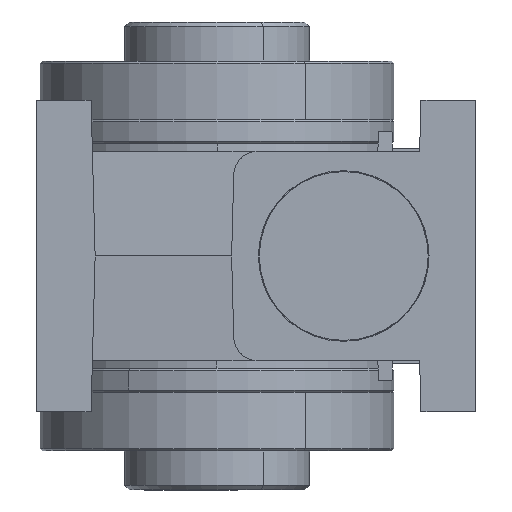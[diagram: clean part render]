
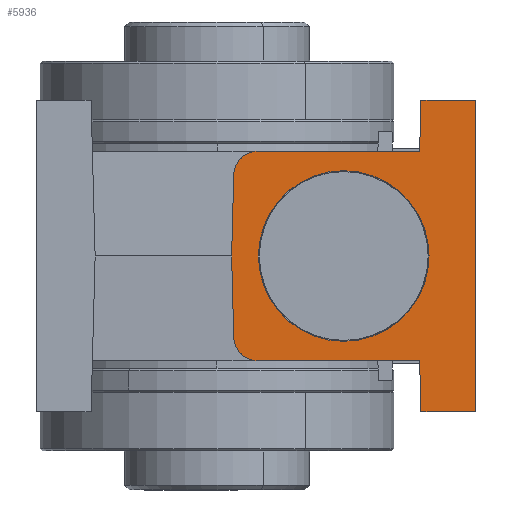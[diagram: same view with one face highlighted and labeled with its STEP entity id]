
A CAD part, left-side view. The second image highlights one B-rep face of the part: STEP entity #5936.
In plain terms, the highlighted planar face has unit normal (-1, 0, 0).
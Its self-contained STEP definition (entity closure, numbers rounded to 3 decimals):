
#110 = DIRECTION ( 'NONE',  ( 0., -1., 0. ) ) ;
#213 = EDGE_CURVE ( 'NONE', #26625, #3086, #16313, .T. ) ;
#305 = CARTESIAN_POINT ( 'NONE',  ( -37., -41., 0. ) ) ;
#313 = AXIS2_PLACEMENT_3D ( 'NONE', #24184, #5922, #22205 ) ;
#627 = EDGE_CURVE ( 'NONE', #12957, #15087, #24593, .T. ) ;
#984 = DIRECTION ( 'NONE',  ( 0., -1., 0. ) ) ;
#1165 = LINE ( 'NONE', #14846, #26488 ) ;
#1250 = CARTESIAN_POINT ( 'NONE',  ( -37., -55., 32. ) ) ;
#1380 = AXIS2_PLACEMENT_3D ( 'NONE', #6233, #10926, #8052 ) ;
#1404 = DIRECTION ( 'NONE',  ( 0., 1., 0. ) ) ;
#1718 = DIRECTION ( 'NONE',  ( 0., 1., 0. ) ) ;
#1857 = ORIENTED_EDGE ( 'NONE', *, *, #213, .F. ) ;
#1864 = DIRECTION ( 'NONE',  ( 0., 0.026, 1. ) ) ;
#1963 = VERTEX_POINT ( 'NONE', #29750 ) ;
#2419 = DIRECTION ( 'NONE',  ( 0., -0.026, -1. ) ) ;
#2788 = VERTEX_POINT ( 'NONE', #24681 ) ;
#3060 = CARTESIAN_POINT ( 'NONE',  ( -37., -8.434, 21.5 ) ) ;
#3086 = VERTEX_POINT ( 'NONE', #3060 ) ;
#3382 = EDGE_CURVE ( 'NONE', #19546, #1963, #11390, .T. ) ;
#3609 = CARTESIAN_POINT ( 'NONE',  ( -37., -41., 0. ) ) ;
#3844 = FACE_OUTER_BOUND ( 'NONE', #13237, .T. ) ;
#4370 = ORIENTED_EDGE ( 'NONE', *, *, #3382, .T. ) ;
#4511 = EDGE_CURVE ( 'NONE', #22942, #2788, #27109, .T. ) ;
#4650 = VERTEX_POINT ( 'NONE', #16252 ) ;
#5173 = ORIENTED_EDGE ( 'NONE', *, *, #8537, .T. ) ;
#5922 = DIRECTION ( 'NONE',  ( 1., 0., 0. ) ) ;
#5936 = ADVANCED_FACE ( 'NONE', ( #24830, #3844 ), #24683, .F. ) ;
#5946 = LINE ( 'NONE', #1250, #10911 ) ;
#6233 = CARTESIAN_POINT ( 'NONE',  ( -37., -8.434, -16.5 ) ) ;
#6413 = ORIENTED_EDGE ( 'NONE', *, *, #26399, .F. ) ;
#6517 = VERTEX_POINT ( 'NONE', #17705 ) ;
#8052 = DIRECTION ( 'NONE',  ( 0., 1., 0. ) ) ;
#8537 = EDGE_CURVE ( 'NONE', #9584, #15087, #5946, .T. ) ;
#8660 = EDGE_LOOP ( 'NONE', ( #18409, #23710 ) ) ;
#9109 = VECTOR ( 'NONE', #2419, 1000. ) ;
#9381 = LINE ( 'NONE', #16238, #13013 ) ;
#9584 = VERTEX_POINT ( 'NONE', #17238 ) ;
#10911 = VECTOR ( 'NONE', #1404, 1000. ) ;
#10926 = DIRECTION ( 'NONE',  ( 1., 0., 0. ) ) ;
#11056 = EDGE_CURVE ( 'NONE', #19237, #4650, #12316, .T. ) ;
#11390 = LINE ( 'NONE', #305, #9109 ) ;
#11739 = EDGE_CURVE ( 'NONE', #3086, #12957, #28539, .T. ) ;
#11808 = VECTOR ( 'NONE', #29188, 1000. ) ;
#12316 = CIRCLE ( 'NONE', #18626, 17.5 ) ;
#12332 = ORIENTED_EDGE ( 'NONE', *, *, #11739, .F. ) ;
#12957 = VERTEX_POINT ( 'NONE', #28591 ) ;
#13013 = VECTOR ( 'NONE', #25524, 1000. ) ;
#13096 = VECTOR ( 'NONE', #1864, 1000. ) ;
#13179 = ORIENTED_EDGE ( 'NONE', *, *, #20208, .F. ) ;
#13237 = EDGE_LOOP ( 'NONE', ( #21566, #12332, #1857, #22671, #13179, #27386, #6413, #4370, #15852, #21770, #5173 ) ) ;
#13700 = DIRECTION ( 'NONE',  ( 1., 0., 0. ) ) ;
#14846 = CARTESIAN_POINT ( 'NONE',  ( -37., -53., -21.5 ) ) ;
#15087 = VERTEX_POINT ( 'NONE', #25929 ) ;
#15852 = ORIENTED_EDGE ( 'NONE', *, *, #26790, .T. ) ;
#16151 = CARTESIAN_POINT ( 'NONE',  ( -37., -26., 0. ) ) ;
#16238 = CARTESIAN_POINT ( 'NONE',  ( -37., -53., 32. ) ) ;
#16252 = CARTESIAN_POINT ( 'NONE',  ( -37., -43.5, 0. ) ) ;
#16313 = CIRCLE ( 'NONE', #313, 5. ) ;
#16360 = VERTEX_POINT ( 'NONE', #22085 ) ;
#16631 = CARTESIAN_POINT ( 'NONE',  ( -37., 37., -32. ) ) ;
#17079 = DIRECTION ( 'NONE',  ( 1., 0., 0. ) ) ;
#17151 = AXIS2_PLACEMENT_3D ( 'NONE', #20552, #13700, #18111 ) ;
#17238 = CARTESIAN_POINT ( 'NONE',  ( -37., -53., 32. ) ) ;
#17276 = VECTOR ( 'NONE', #110, 1000. ) ;
#17482 = CARTESIAN_POINT ( 'NONE',  ( -37., -41.563, -21.5 ) ) ;
#17705 = CARTESIAN_POINT ( 'NONE',  ( -37., -53., -32. ) ) ;
#17848 = CARTESIAN_POINT ( 'NONE',  ( -37., -3.435, 16.631 ) ) ;
#18111 = DIRECTION ( 'NONE',  ( 0., 1., 0. ) ) ;
#18272 = DIRECTION ( 'NONE',  ( 1., 0., 0. ) ) ;
#18409 = ORIENTED_EDGE ( 'NONE', *, *, #11056, .T. ) ;
#18626 = AXIS2_PLACEMENT_3D ( 'NONE', #16151, #18272, #1718 ) ;
#18951 = EDGE_CURVE ( 'NONE', #4650, #19237, #26110, .T. ) ;
#18952 = DIRECTION ( 'NONE',  ( 0., 1., 0. ) ) ;
#19237 = VERTEX_POINT ( 'NONE', #25273 ) ;
#19546 = VERTEX_POINT ( 'NONE', #17482 ) ;
#20208 = EDGE_CURVE ( 'NONE', #2788, #16360, #24836, .T. ) ;
#20552 = CARTESIAN_POINT ( 'NONE',  ( -37., 37., 32. ) ) ;
#21566 = ORIENTED_EDGE ( 'NONE', *, *, #627, .F. ) ;
#21770 = ORIENTED_EDGE ( 'NONE', *, *, #29346, .F. ) ;
#21936 = CARTESIAN_POINT ( 'NONE',  ( -37., -8.434, -21.5 ) ) ;
#22085 = CARTESIAN_POINT ( 'NONE',  ( -37., -3., 0. ) ) ;
#22169 = DIRECTION ( 'NONE',  ( 0., -0.026, 1. ) ) ;
#22205 = DIRECTION ( 'NONE',  ( 0., -1., 0. ) ) ;
#22565 = EDGE_CURVE ( 'NONE', #16360, #26625, #24922, .T. ) ;
#22671 = ORIENTED_EDGE ( 'NONE', *, *, #22565, .F. ) ;
#22942 = VERTEX_POINT ( 'NONE', #21936 ) ;
#23616 = DIRECTION ( 'NONE',  ( 0., 1., 0. ) ) ;
#23710 = ORIENTED_EDGE ( 'NONE', *, *, #18951, .T. ) ;
#23933 = LINE ( 'NONE', #16631, #29358 ) ;
#24184 = CARTESIAN_POINT ( 'NONE',  ( -37., -8.434, 16.5 ) ) ;
#24593 = LINE ( 'NONE', #3609, #24617 ) ;
#24617 = VECTOR ( 'NONE', #22169, 1000. ) ;
#24681 = CARTESIAN_POINT ( 'NONE',  ( -37., -3.435, -16.631 ) ) ;
#24683 = PLANE ( 'NONE',  #17151 ) ;
#24830 = FACE_BOUND ( 'NONE', #8660, .T. ) ;
#24836 = LINE ( 'NONE', #27711, #13096 ) ;
#24922 = LINE ( 'NONE', #29042, #11808 ) ;
#25273 = CARTESIAN_POINT ( 'NONE',  ( -37., -8.5, 0. ) ) ;
#25501 = CARTESIAN_POINT ( 'NONE',  ( -37., -53., 21.5 ) ) ;
#25524 = DIRECTION ( 'NONE',  ( 0., 0., -1. ) ) ;
#25929 = CARTESIAN_POINT ( 'NONE',  ( -37., -41.838, 32. ) ) ;
#26110 = CIRCLE ( 'NONE', #29474, 17.5 ) ;
#26399 = EDGE_CURVE ( 'NONE', #19546, #22942, #1165, .T. ) ;
#26488 = VECTOR ( 'NONE', #18952, 1000. ) ;
#26625 = VERTEX_POINT ( 'NONE', #17848 ) ;
#26790 = EDGE_CURVE ( 'NONE', #1963, #6517, #23933, .T. ) ;
#27109 = CIRCLE ( 'NONE', #1380, 5. ) ;
#27386 = ORIENTED_EDGE ( 'NONE', *, *, #4511, .F. ) ;
#27711 = CARTESIAN_POINT ( 'NONE',  ( -37., -3.435, -16.631 ) ) ;
#28539 = LINE ( 'NONE', #25501, #17276 ) ;
#28591 = CARTESIAN_POINT ( 'NONE',  ( -37., -41.563, 21.5 ) ) ;
#28787 = CARTESIAN_POINT ( 'NONE',  ( -37., -26., 0. ) ) ;
#29042 = CARTESIAN_POINT ( 'NONE',  ( -37., -3., 0. ) ) ;
#29188 = DIRECTION ( 'NONE',  ( 0., -0.026, 1. ) ) ;
#29346 = EDGE_CURVE ( 'NONE', #9584, #6517, #9381, .T. ) ;
#29358 = VECTOR ( 'NONE', #984, 1000. ) ;
#29474 = AXIS2_PLACEMENT_3D ( 'NONE', #28787, #17079, #23616 ) ;
#29750 = CARTESIAN_POINT ( 'NONE',  ( -37., -41.838, -32. ) ) ;
